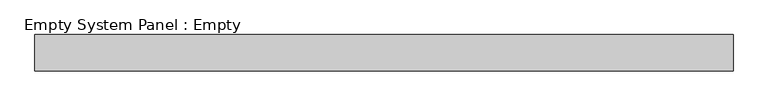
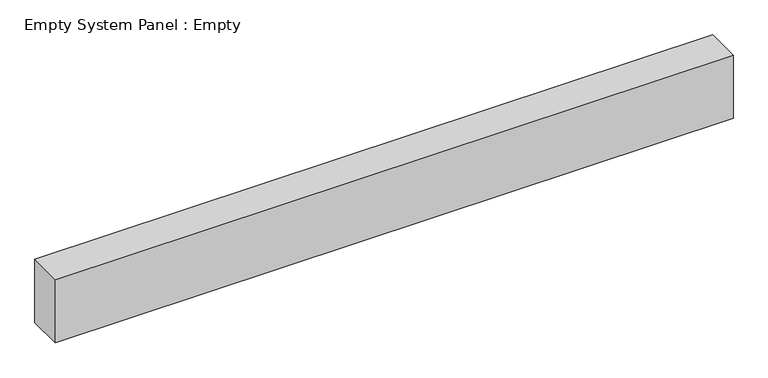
"""IFC4 building model written with IfcOpenShell, lengths in millimetres: plate geometry, Empty System Panel : Empty."""

from ifc_helpers import new_model, si_unit, origin, origin_with_axes, place, context, project, spatial, polyline, outline, extrude, source, transform, mapped, element, save


def empty_system_panel_empty_83ec7203(model_context):
    return source(origin(), model_context, "Body", "SweptSolid", [
        extrude(outline(polyline([(962.5, -50.0), (-962.5, -50.0), (-962.5, 50.0), (962.5, 50.0), (962.5, -50.0)])), origin_with_axes(), (0.0, 0.0, 1.0), 190.0),
    ])


if __name__ == "__main__":
    model = new_model("IFC4")
    model_context = context("Model", 3, world=origin())
    ifc_project = project(units=[si_unit("LENGTHUNIT", "METRE", prefix="MILLI")], contexts=[model_context])
    site = spatial("IfcSite", under=ifc_project)
    building = spatial("IfcBuilding", under=site)
    placement = place(None, origin())
    empty_system_panel_empty_shape = empty_system_panel_empty_83ec7203(model_context)
    element("IfcPlate", 1, ObjectType="Empty System Panel : Empty", at=placement, inside=building, context=model_context, shape_type="MappedRepresentation", body=[
        mapped(empty_system_panel_empty_shape, transform((0.0, 0.0, 0.0), x_axis=(1.0, 0.0, 0.0), y_axis=(0.0, 1.0, 0.0), z_axis=(0.0, 0.0, 1.0))),
    ])
    save(model, "model.ifc")
